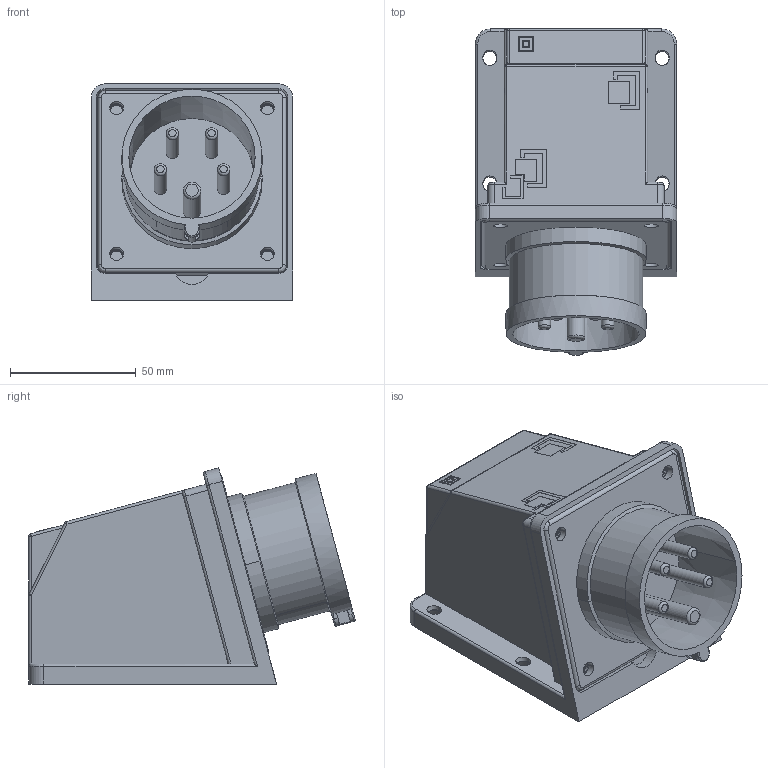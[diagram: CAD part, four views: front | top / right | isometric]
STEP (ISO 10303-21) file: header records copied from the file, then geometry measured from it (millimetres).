
FILE_DESCRIPTION(('FreeCAD Model'),'2;1');
FILE_NAME('Open CASCADE Shape Model','2026-02-04T09:26:20',(''),(''), 'Open CASCADE STEP processor 7.8','FreeCAD','Unknown');
FILE_SCHEMA(('AUTOMOTIVE_DESIGN { 1 0 10303 214 1 1 1 1 }'));
Length unit declared in the file: millimetre
Products named in the file (10): TL3M16453; Base interna tomada; Tomada; Pino Neutro; Pino L3; Pino Terra; Pino L2; Pino L1; Terminais; Estrutura corpo
Assembly tree (9 placements, depth 2):
  TL3M16453
    Base interna tomada
    Tomada
    Pino Neutro
    Pino L3
    Pino Terra
    Pino L2
    Pino L1
    Terminais
    Estrutura corpo
Bounding box: 80 x 129.74 x 85.97 mm (x, y, z)
Volume: 359121.5 mm3; surface area: 91704.4 mm2
Topology: 9 solids, 15 shells, 793 faces, 1993 edges, 1286 vertices
Faces by surface type: plane 475, cylinder 224, torus 56, cone 16, bspline 16, sphere 6
Full cylindrical faces by diameter (mm): 5 x4, 7 x1, 49 x2
Entity records: 25984 total; most frequent: CARTESIAN_POINT 6413, DIRECTION 4033, ORIENTED_EDGE 3986, EDGE_CURVE 1993, AXIS2_PLACEMENT_3D 1346, LINE 1341, VECTOR 1341, VERTEX_POINT 1286
